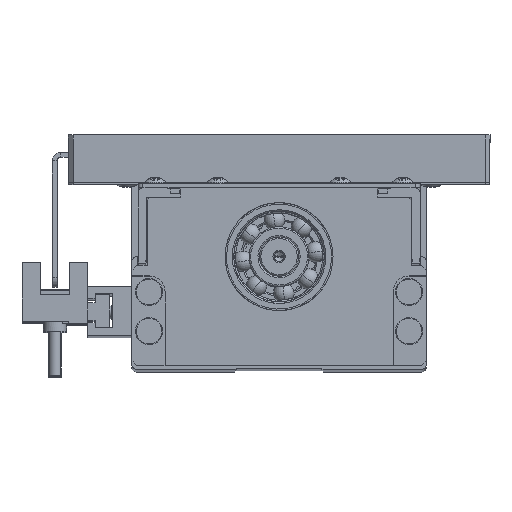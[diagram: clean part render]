
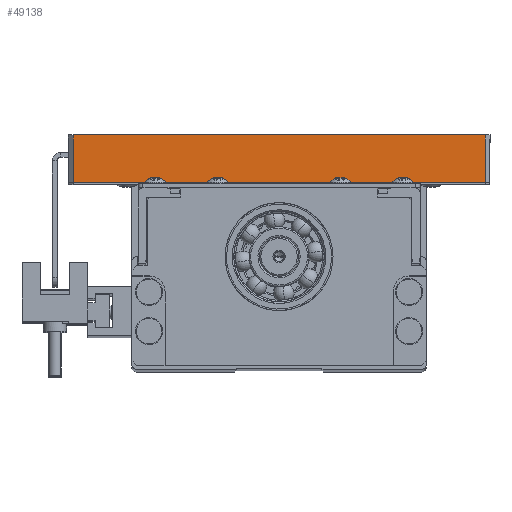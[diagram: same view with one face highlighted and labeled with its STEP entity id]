
A CAD part, top view. The second image highlights one B-rep face of the part: STEP entity #49138.
In plain terms, the highlighted planar face has unit normal (0, 0, 1).
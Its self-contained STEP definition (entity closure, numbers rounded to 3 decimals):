
#1362 = VECTOR ( 'NONE', #9990, 1000. ) ;
#8150 = EDGE_LOOP ( 'NONE', ( #44076, #42687, #94810, #85236 ) ) ;
#8210 = VECTOR ( 'NONE', #66847, 1000. ) ;
#8309 = LINE ( 'NONE', #55699, #48665 ) ;
#9990 = DIRECTION ( 'NONE',  ( 0., 1., 0. ) ) ;
#12471 = CARTESIAN_POINT ( 'NONE',  ( 42., 39.3, 40.75 ) ) ;
#13264 = CARTESIAN_POINT ( 'NONE',  ( -42., 39.3, 40.75 ) ) ;
#13746 = PLANE ( 'NONE',  #82653 ) ;
#17173 = EDGE_CURVE ( 'NONE', #26893, #25288, #97052, .T. ) ;
#17257 = CARTESIAN_POINT ( 'NONE',  ( -42., 39.3, 40.75 ) ) ;
#25288 = VERTEX_POINT ( 'NONE', #98110 ) ;
#26893 = VERTEX_POINT ( 'NONE', #12471 ) ;
#28659 = CARTESIAN_POINT ( 'NONE',  ( 43., 49., 40.75 ) ) ;
#29157 = FACE_OUTER_BOUND ( 'NONE', #8150, .T. ) ;
#29647 = DIRECTION ( 'NONE',  ( 1., 0., 0. ) ) ;
#31155 = EDGE_CURVE ( 'NONE', #47017, #25288, #74073, .T. ) ;
#32307 = VERTEX_POINT ( 'NONE', #13264 ) ;
#33127 = CARTESIAN_POINT ( 'NONE',  ( 42., 49., 40.75 ) ) ;
#42645 = EDGE_CURVE ( 'NONE', #47017, #32307, #56423, .T. ) ;
#42687 = ORIENTED_EDGE ( 'NONE', *, *, #17173, .T. ) ;
#44076 = ORIENTED_EDGE ( 'NONE', *, *, #81142, .F. ) ;
#45182 = CARTESIAN_POINT ( 'NONE',  ( 0., 49., 40.75 ) ) ;
#47017 = VERTEX_POINT ( 'NONE', #51334 ) ;
#48665 = VECTOR ( 'NONE', #56204, 1000. ) ;
#49138 = ADVANCED_FACE ( 'NONE', ( #29157 ), #13746, .T. ) ;
#51334 = CARTESIAN_POINT ( 'NONE',  ( -42., 49., 40.75 ) ) ;
#55699 = CARTESIAN_POINT ( 'NONE',  ( -43., 39.3, 40.75 ) ) ;
#56204 = DIRECTION ( 'NONE',  ( -1., 0., 0. ) ) ;
#56423 = LINE ( 'NONE', #17257, #76370 ) ;
#66847 = DIRECTION ( 'NONE',  ( 1., 0., 0. ) ) ;
#74073 = LINE ( 'NONE', #28659, #8210 ) ;
#76370 = VECTOR ( 'NONE', #97116, 1000. ) ;
#81142 = EDGE_CURVE ( 'NONE', #26893, #32307, #8309, .T. ) ;
#82653 = AXIS2_PLACEMENT_3D ( 'NONE', #45182, #100296, #29647 ) ;
#85236 = ORIENTED_EDGE ( 'NONE', *, *, #42645, .T. ) ;
#94810 = ORIENTED_EDGE ( 'NONE', *, *, #31155, .F. ) ;
#97052 = LINE ( 'NONE', #33127, #1362 ) ;
#97116 = DIRECTION ( 'NONE',  ( 0., -1., 0. ) ) ;
#98110 = CARTESIAN_POINT ( 'NONE',  ( 42., 49., 40.75 ) ) ;
#100296 = DIRECTION ( 'NONE',  ( 0., 0., 1. ) ) ;
